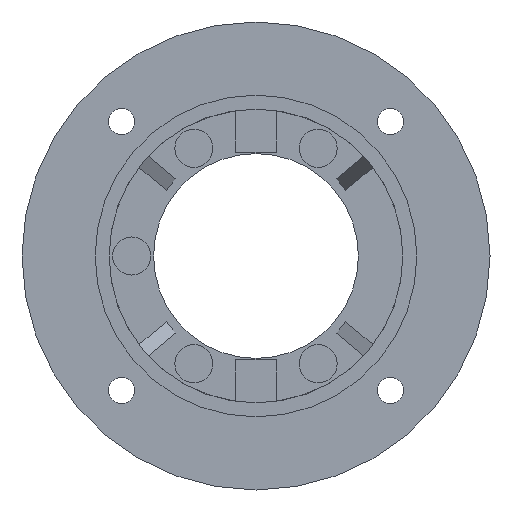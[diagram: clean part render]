
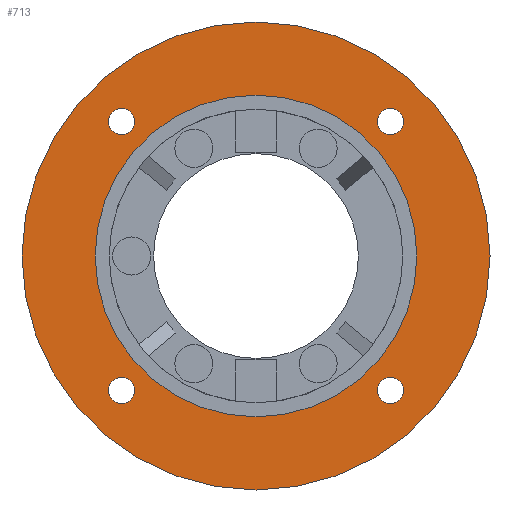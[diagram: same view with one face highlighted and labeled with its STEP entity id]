
A CAD part, left-side view. The second image highlights one B-rep face of the part: STEP entity #713.
In plain terms, the highlighted planar face has unit normal (-1, 0, 0) as drawn and (1, 0, 0) by its records, which use the part's own axes.
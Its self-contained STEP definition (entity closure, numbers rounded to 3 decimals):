
#713=ADVANCED_FACE('',(#817,#797,#798,#799,#800,#801),#2210,.T.);
#797=FACE_BOUND('',#916,.T.);
#798=FACE_BOUND('',#917,.T.);
#799=FACE_BOUND('',#918,.T.);
#800=FACE_BOUND('',#919,.T.);
#801=FACE_BOUND('',#920,.T.);
#817=FACE_OUTER_BOUND('',#915,.T.);
#915=EDGE_LOOP('',(#1160,#1161));
#916=EDGE_LOOP('',(#1162,#1163));
#917=EDGE_LOOP('',(#1164,#1165));
#918=EDGE_LOOP('',(#1166,#1167));
#919=EDGE_LOOP('',(#1168,#1169));
#920=EDGE_LOOP('',(#1170,#1171));
#1160=ORIENTED_EDGE('',*,*,#1651,.F.);
#1161=ORIENTED_EDGE('',*,*,#1549,.F.);
#1162=ORIENTED_EDGE('',*,*,#1663,.F.);
#1163=ORIENTED_EDGE('',*,*,#1575,.F.);
#1164=ORIENTED_EDGE('',*,*,#1661,.F.);
#1165=ORIENTED_EDGE('',*,*,#1571,.F.);
#1166=ORIENTED_EDGE('',*,*,#1659,.F.);
#1167=ORIENTED_EDGE('',*,*,#1567,.F.);
#1168=ORIENTED_EDGE('',*,*,#1657,.F.);
#1169=ORIENTED_EDGE('',*,*,#1563,.F.);
#1170=ORIENTED_EDGE('',*,*,#1655,.F.);
#1171=ORIENTED_EDGE('',*,*,#1553,.F.);
#1549=EDGE_CURVE('',#2122,#2145,#1724,.T.);
#1553=EDGE_CURVE('',#2123,#2146,#1727,.T.);
#1563=EDGE_CURVE('',#2127,#2148,#1736,.T.);
#1567=EDGE_CURVE('',#2126,#2149,#1739,.T.);
#1571=EDGE_CURVE('',#2125,#2150,#1742,.T.);
#1575=EDGE_CURVE('',#2124,#2151,#1745,.T.);
#1651=EDGE_CURVE('',#2145,#2122,#1766,.T.);
#1655=EDGE_CURVE('',#2146,#2123,#1769,.T.);
#1657=EDGE_CURVE('',#2148,#2127,#1770,.T.);
#1659=EDGE_CURVE('',#2149,#2126,#1771,.T.);
#1661=EDGE_CURVE('',#2150,#2125,#1772,.T.);
#1663=EDGE_CURVE('',#2151,#2124,#1773,.T.);
#1724=TRIMMED_CURVE($,#1820,(#3426),(#3427),.T.,.CARTESIAN.);
#1727=TRIMMED_CURVE($,#1823,(#3437),(#3438),.T.,.CARTESIAN.);
#1736=TRIMMED_CURVE($,#1832,(#3466),(#3467),.T.,.CARTESIAN.);
#1739=TRIMMED_CURVE($,#1835,(#3477),(#3478),.T.,.CARTESIAN.);
#1742=TRIMMED_CURVE($,#1838,(#3488),(#3489),.T.,.CARTESIAN.);
#1745=TRIMMED_CURVE($,#1841,(#3499),(#3500),.T.,.CARTESIAN.);
#1766=TRIMMED_CURVE($,#1862,(#3704),(#3705),.T.,.CARTESIAN.);
#1769=TRIMMED_CURVE($,#1865,(#3715),(#3716),.T.,.CARTESIAN.);
#1770=TRIMMED_CURVE($,#1866,(#3720),(#3721),.T.,.CARTESIAN.);
#1771=TRIMMED_CURVE($,#1867,(#3725),(#3726),.T.,.CARTESIAN.);
#1772=TRIMMED_CURVE($,#1868,(#3730),(#3731),.T.,.CARTESIAN.);
#1773=TRIMMED_CURVE($,#1869,(#3735),(#3736),.T.,.CARTESIAN.);
#1820=CIRCLE('',#2541,80.);
#1823=CIRCLE('',#2544,55.);
#1832=CIRCLE('',#2553,4.5);
#1835=CIRCLE('',#2556,4.5);
#1838=CIRCLE('',#2559,4.5);
#1841=CIRCLE('',#2562,4.5);
#1862=CIRCLE('',#2583,80.);
#1865=CIRCLE('',#2586,55.);
#1866=CIRCLE('',#2587,4.5);
#1867=CIRCLE('',#2588,4.5);
#1868=CIRCLE('',#2589,4.5);
#1869=CIRCLE('',#2590,4.5);
#2122=VERTEX_POINT('',#3155);
#2123=VERTEX_POINT('',#3156);
#2124=VERTEX_POINT('',#3157);
#2125=VERTEX_POINT('',#3158);
#2126=VERTEX_POINT('',#3159);
#2127=VERTEX_POINT('',#3160);
#2145=VERTEX_POINT('',#3178);
#2146=VERTEX_POINT('',#3179);
#2148=VERTEX_POINT('',#3181);
#2149=VERTEX_POINT('',#3182);
#2150=VERTEX_POINT('',#3183);
#2151=VERTEX_POINT('',#3184);
#2210=PLANE('',#2440);
#2440=AXIS2_PLACEMENT_3D('',#2902,#2623,$);
#2541=AXIS2_PLACEMENT_3D($,#3425,#2758,#2759);
#2544=AXIS2_PLACEMENT_3D($,#3436,#2764,#2765);
#2553=AXIS2_PLACEMENT_3D($,#3465,#2782,#2783);
#2556=AXIS2_PLACEMENT_3D($,#3476,#2788,#2789);
#2559=AXIS2_PLACEMENT_3D($,#3487,#2794,#2795);
#2562=AXIS2_PLACEMENT_3D($,#3498,#2800,#2801);
#2583=AXIS2_PLACEMENT_3D($,#3703,#2842,#2843);
#2586=AXIS2_PLACEMENT_3D($,#3714,#2848,#2849);
#2587=AXIS2_PLACEMENT_3D($,#3719,#2850,#2851);
#2588=AXIS2_PLACEMENT_3D($,#3724,#2852,#2853);
#2589=AXIS2_PLACEMENT_3D($,#3729,#2854,#2855);
#2590=AXIS2_PLACEMENT_3D($,#3734,#2856,#2857);
#2623=DIRECTION('',(1.,0.,0.));
#2758=DIRECTION('',(-1.,0.,0.));
#2759=DIRECTION('',(0.,0.,-1.));
#2764=DIRECTION('',(1.,0.,0.));
#2765=DIRECTION('',(0.,0.,-1.));
#2782=DIRECTION('',(1.,0.,0.));
#2783=DIRECTION('',(0.,0.,1.));
#2788=DIRECTION('',(1.,0.,0.));
#2789=DIRECTION('',(0.,0.,1.));
#2794=DIRECTION('',(1.,0.,0.));
#2795=DIRECTION('',(0.,0.,1.));
#2800=DIRECTION('',(1.,0.,0.));
#2801=DIRECTION('',(0.,0.,1.));
#2842=DIRECTION('',(-1.,0.,0.));
#2843=DIRECTION('',(0.,0.,1.));
#2848=DIRECTION('',(1.,0.,0.));
#2849=DIRECTION('',(0.,0.,1.));
#2850=DIRECTION('',(1.,0.,0.));
#2851=DIRECTION('',(0.,0.,-1.));
#2852=DIRECTION('',(1.,0.,0.));
#2853=DIRECTION('',(0.,0.,-1.));
#2854=DIRECTION('',(1.,0.,0.));
#2855=DIRECTION('',(0.,0.,-1.));
#2856=DIRECTION('',(1.,0.,0.));
#2857=DIRECTION('',(0.,0.,-1.));
#2902=CARTESIAN_POINT('',(19.,-96.,-96.));
#3155=CARTESIAN_POINT('',(19.,0.,-80.));
#3156=CARTESIAN_POINT('',(19.,0.,-55.));
#3157=CARTESIAN_POINT('',(19.,-45.962,-41.462));
#3158=CARTESIAN_POINT('',(19.,-45.962,50.462));
#3159=CARTESIAN_POINT('',(19.,45.962,50.462));
#3160=CARTESIAN_POINT('',(19.,45.962,-41.462));
#3178=CARTESIAN_POINT('',(19.,0.,80.));
#3179=CARTESIAN_POINT('',(19.,0.,55.));
#3181=CARTESIAN_POINT('',(19.,45.962,-50.462));
#3182=CARTESIAN_POINT('',(19.,45.962,41.462));
#3183=CARTESIAN_POINT('',(19.,-45.962,41.462));
#3184=CARTESIAN_POINT('',(19.,-45.962,-50.462));
#3425=CARTESIAN_POINT('',(19.,0.,0.));
#3426=CARTESIAN_POINT('',(19.,0.,-80.));
#3427=CARTESIAN_POINT('',(19.,0.,80.));
#3436=CARTESIAN_POINT('',(19.,0.,0.));
#3437=CARTESIAN_POINT('',(19.,0.,-55.));
#3438=CARTESIAN_POINT('',(19.,0.,55.));
#3465=CARTESIAN_POINT('',(19.,45.962,-45.962));
#3466=CARTESIAN_POINT('',(19.,45.962,-41.462));
#3467=CARTESIAN_POINT('',(19.,45.962,-50.462));
#3476=CARTESIAN_POINT('',(19.,45.962,45.962));
#3477=CARTESIAN_POINT('',(19.,45.962,50.462));
#3478=CARTESIAN_POINT('',(19.,45.962,41.462));
#3487=CARTESIAN_POINT('',(19.,-45.962,45.962));
#3488=CARTESIAN_POINT('',(19.,-45.962,50.462));
#3489=CARTESIAN_POINT('',(19.,-45.962,41.462));
#3498=CARTESIAN_POINT('',(19.,-45.962,-45.962));
#3499=CARTESIAN_POINT('',(19.,-45.962,-41.462));
#3500=CARTESIAN_POINT('',(19.,-45.962,-50.462));
#3703=CARTESIAN_POINT('',(19.,0.,0.));
#3704=CARTESIAN_POINT('',(19.,0.,80.));
#3705=CARTESIAN_POINT('',(19.,0.,-80.));
#3714=CARTESIAN_POINT('',(19.,0.,0.));
#3715=CARTESIAN_POINT('',(19.,0.,55.));
#3716=CARTESIAN_POINT('',(19.,0.,-55.));
#3719=CARTESIAN_POINT('',(19.,45.962,-45.962));
#3720=CARTESIAN_POINT('',(19.,45.962,-50.462));
#3721=CARTESIAN_POINT('',(19.,45.962,-41.462));
#3724=CARTESIAN_POINT('',(19.,45.962,45.962));
#3725=CARTESIAN_POINT('',(19.,45.962,41.462));
#3726=CARTESIAN_POINT('',(19.,45.962,50.462));
#3729=CARTESIAN_POINT('',(19.,-45.962,45.962));
#3730=CARTESIAN_POINT('',(19.,-45.962,41.462));
#3731=CARTESIAN_POINT('',(19.,-45.962,50.462));
#3734=CARTESIAN_POINT('',(19.,-45.962,-45.962));
#3735=CARTESIAN_POINT('',(19.,-45.962,-50.462));
#3736=CARTESIAN_POINT('',(19.,-45.962,-41.462));
